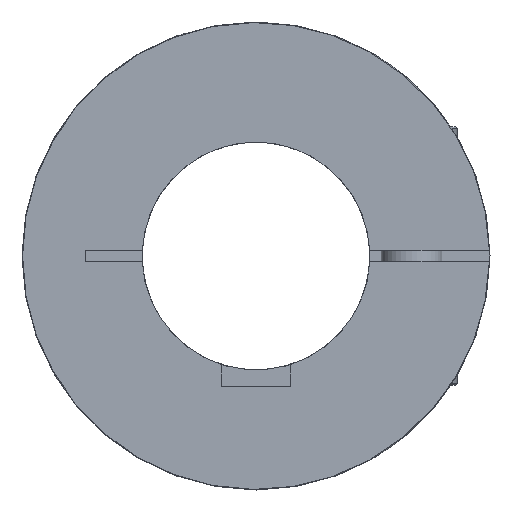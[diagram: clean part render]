
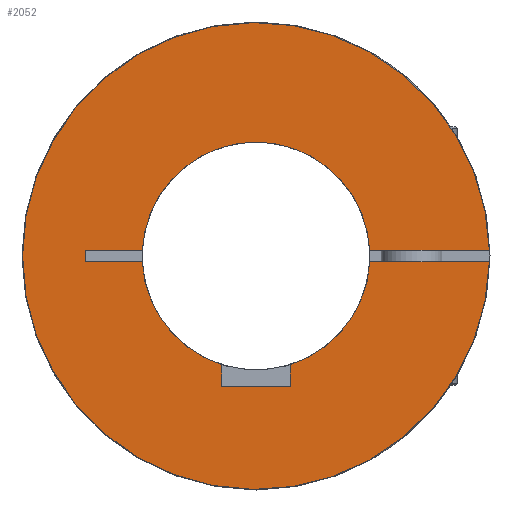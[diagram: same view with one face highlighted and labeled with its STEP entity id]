
A CAD part, left-side view. The second image highlights one B-rep face of the part: STEP entity #2052.
In plain terms, the highlighted planar face has unit normal (-1, 0, 0).
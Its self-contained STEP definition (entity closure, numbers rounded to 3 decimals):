
#74=PLANE('',#2277);
#155=LINE('',#3410,#265);
#158=LINE('',#3416,#268);
#159=LINE('',#3418,#269);
#169=LINE('',#3437,#279);
#172=LINE('',#3447,#282);
#175=LINE('',#3453,#285);
#176=LINE('',#3454,#286);
#177=LINE('',#3456,#287);
#265=VECTOR('',#2696,1.);
#268=VECTOR('',#2701,1.);
#269=VECTOR('',#2704,1.);
#279=VECTOR('',#2722,1000.);
#282=VECTOR('',#2731,1000.);
#285=VECTOR('',#2736,1000.);
#286=VECTOR('',#2737,1000.);
#287=VECTOR('',#2738,1000.);
#401=FACE_OUTER_BOUND('',#523,.T.);
#523=EDGE_LOOP('',(#1524,#1525,#1526,#1527,#1528,#1529,#1530,#1531,#1532,
#1533,#1534,#1535));
#739=CIRCLE('',#2261,30.);
#741=CIRCLE('',#2263,30.);
#742=CIRCLE('',#2265,30.);
#746=CIRCLE('',#2278,61.5);
#922=VERTEX_POINT('',#3383);
#923=VERTEX_POINT('',#3385);
#926=VERTEX_POINT('',#3391);
#927=VERTEX_POINT('',#3393);
#928=VERTEX_POINT('',#3397);
#929=VERTEX_POINT('',#3398);
#933=VERTEX_POINT('',#3408);
#935=VERTEX_POINT('',#3414);
#940=VERTEX_POINT('',#3436);
#944=VERTEX_POINT('',#3446);
#946=VERTEX_POINT('',#3452);
#947=VERTEX_POINT('',#3455);
#1160=EDGE_CURVE('',#923,#922,#739,.T.);
#1164=EDGE_CURVE('',#927,#926,#741,.T.);
#1166=EDGE_CURVE('',#928,#929,#742,.T.);
#1172=EDGE_CURVE('',#926,#933,#155,.T.);
#1175=EDGE_CURVE('',#933,#935,#158,.T.);
#1176=EDGE_CURVE('',#935,#923,#159,.T.);
#1186=EDGE_CURVE('',#927,#940,#169,.T.);
#1191=EDGE_CURVE('',#944,#928,#172,.T.);
#1194=EDGE_CURVE('',#946,#922,#175,.T.);
#1195=EDGE_CURVE('',#944,#946,#176,.T.);
#1196=EDGE_CURVE('',#929,#947,#177,.T.);
#1197=EDGE_CURVE('',#947,#940,#746,.T.);
#1524=ORIENTED_EDGE('',*,*,#1164,.T.);
#1525=ORIENTED_EDGE('',*,*,#1172,.T.);
#1526=ORIENTED_EDGE('',*,*,#1175,.T.);
#1527=ORIENTED_EDGE('',*,*,#1176,.T.);
#1528=ORIENTED_EDGE('',*,*,#1160,.T.);
#1529=ORIENTED_EDGE('',*,*,#1194,.F.);
#1530=ORIENTED_EDGE('',*,*,#1195,.F.);
#1531=ORIENTED_EDGE('',*,*,#1191,.T.);
#1532=ORIENTED_EDGE('',*,*,#1166,.T.);
#1533=ORIENTED_EDGE('',*,*,#1196,.T.);
#1534=ORIENTED_EDGE('',*,*,#1197,.T.);
#1535=ORIENTED_EDGE('',*,*,#1186,.F.);
#2052=ADVANCED_FACE('',(#401),#74,.T.);
#2261=AXIS2_PLACEMENT_3D('',#3386,#2675,#2676);
#2263=AXIS2_PLACEMENT_3D('',#3394,#2681,#2682);
#2265=AXIS2_PLACEMENT_3D('',#3399,#2686,#2687);
#2277=AXIS2_PLACEMENT_3D('',#3451,#2734,#2735);
#2278=AXIS2_PLACEMENT_3D('',#3457,#2739,#2740);
#2675=DIRECTION('center_axis',(1.,0.,0.));
#2676=DIRECTION('ref_axis',(0.,0.,-1.));
#2681=DIRECTION('center_axis',(1.,0.,0.));
#2682=DIRECTION('ref_axis',(0.,0.,-1.));
#2686=DIRECTION('center_axis',(1.,0.,0.));
#2687=DIRECTION('ref_axis',(0.,0.,-1.));
#2696=DIRECTION('',(0.,0.,-1.));
#2701=DIRECTION('',(0.,1.,0.));
#2704=DIRECTION('',(0.,0.,1.));
#2722=DIRECTION('',(0.,-1.,0.));
#2731=DIRECTION('',(0.,-1.,0.));
#2734=DIRECTION('center_axis',(-1.,0.,0.));
#2735=DIRECTION('ref_axis',(0.,1.,0.));
#2736=DIRECTION('',(0.,-1.,0.));
#2737=DIRECTION('',(0.,0.,-1.));
#2738=DIRECTION('',(0.,-1.,0.));
#2739=DIRECTION('center_axis',(-1.,0.,0.));
#2740=DIRECTION('ref_axis',(0.,1.,0.));
#3383=CARTESIAN_POINT('',(0.,29.962,-1.5));
#3385=CARTESIAN_POINT('',(0.,9.,-28.618));
#3386=CARTESIAN_POINT('Origin',(0.,0.,0.));
#3391=CARTESIAN_POINT('',(0.,-9.,-28.618));
#3393=CARTESIAN_POINT('',(0.,-29.962,-1.5));
#3394=CARTESIAN_POINT('Origin',(0.,0.,0.));
#3397=CARTESIAN_POINT('',(0.,29.962,1.5));
#3398=CARTESIAN_POINT('',(0.,-29.962,1.5));
#3399=CARTESIAN_POINT('Origin',(0.,0.,0.));
#3408=CARTESIAN_POINT('',(0.,-9.,-34.4));
#3410=CARTESIAN_POINT('',(0.,-9.,-17.35));
#3414=CARTESIAN_POINT('',(0.,9.,-34.4));
#3416=CARTESIAN_POINT('',(0.,0.,-34.4));
#3418=CARTESIAN_POINT('',(0.,9.,-17.35));
#3436=CARTESIAN_POINT('',(0.,-61.482,-1.5));
#3437=CARTESIAN_POINT('',(0.,45.,-1.5));
#3446=CARTESIAN_POINT('',(0.,45.,1.5));
#3447=CARTESIAN_POINT('',(0.,45.,1.5));
#3451=CARTESIAN_POINT('Origin',(0.,0.,-17.5));
#3452=CARTESIAN_POINT('',(0.,45.,-1.5));
#3453=CARTESIAN_POINT('',(0.,45.,-1.5));
#3454=CARTESIAN_POINT('',(0.,45.,1.5));
#3455=CARTESIAN_POINT('',(0.,-61.482,1.5));
#3456=CARTESIAN_POINT('',(0.,45.,1.5));
#3457=CARTESIAN_POINT('Origin',(0.,0.,0.));
